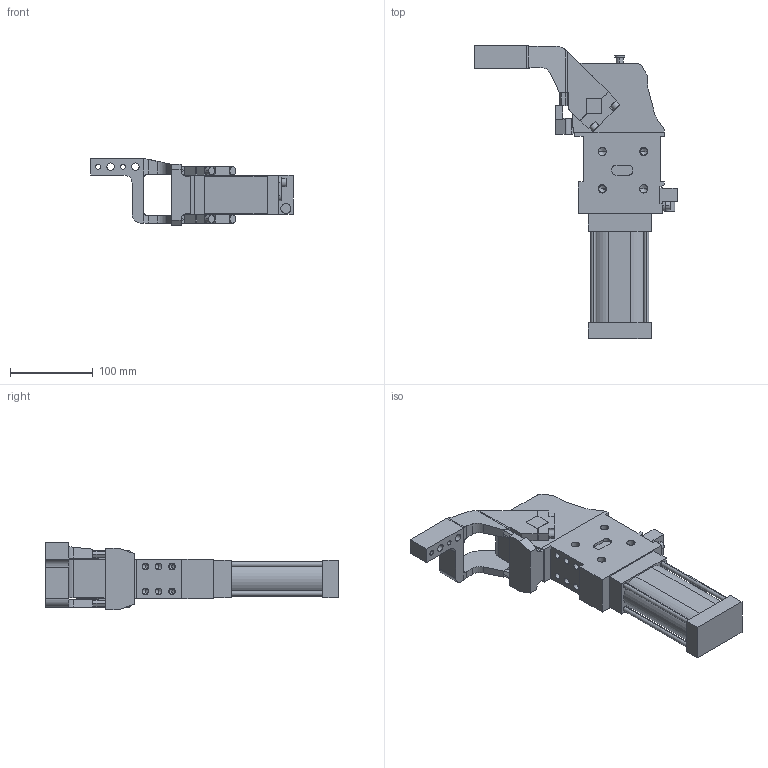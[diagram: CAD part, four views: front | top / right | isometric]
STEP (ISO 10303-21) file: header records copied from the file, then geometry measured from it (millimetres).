
FILE_DESCRIPTION (( 'STEP AP214' ), '1' );
FILE_NAME ('cpl50tv3si1g_135.STEP', '2023-01-26T09:57:17', ( '' ), ( '' ), 'SwSTEP 2.0', 'SolidWorks 2022', '' );
FILE_SCHEMA (( 'AUTOMOTIVE_DESIGN' ));
Length unit declared in the file: millimetre
Products named in the file (4): meccanica_cpl_50_tassello_esterno; blocchetto_VEP_0; leva_v3s_cpl50t; cpl50tv3si1g_135
Assembly tree (3 placements, depth 2):
  cpl50tv3si1g_135
    meccanica_cpl_50_tassello_esterno
    blocchetto_VEP_0
    leva_v3s_cpl50t
Bounding box: 244.5 x 353.5 x 81 mm (x, y, z)
Volume: 1433094.2 mm3; surface area: 174141.2 mm2
Topology: 3 solids, 3 shells, 434 faces, 1128 edges, 705 vertices
Faces by surface type: plane 226, cylinder 158, cone 50
Entity records: 14524 total; most frequent: CARTESIAN_POINT 2327, DIRECTION 2275, ORIENTED_EDGE 2164, EDGE_CURVE 1082, AXIS2_PLACEMENT_3D 767, VECTOR 741, LINE 741, VERTEX_POINT 705
